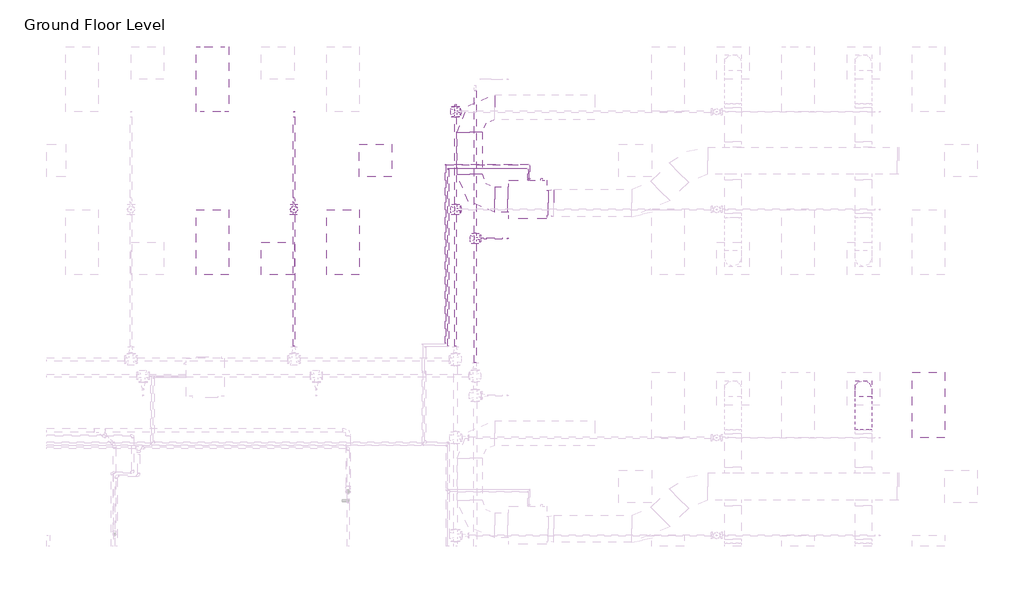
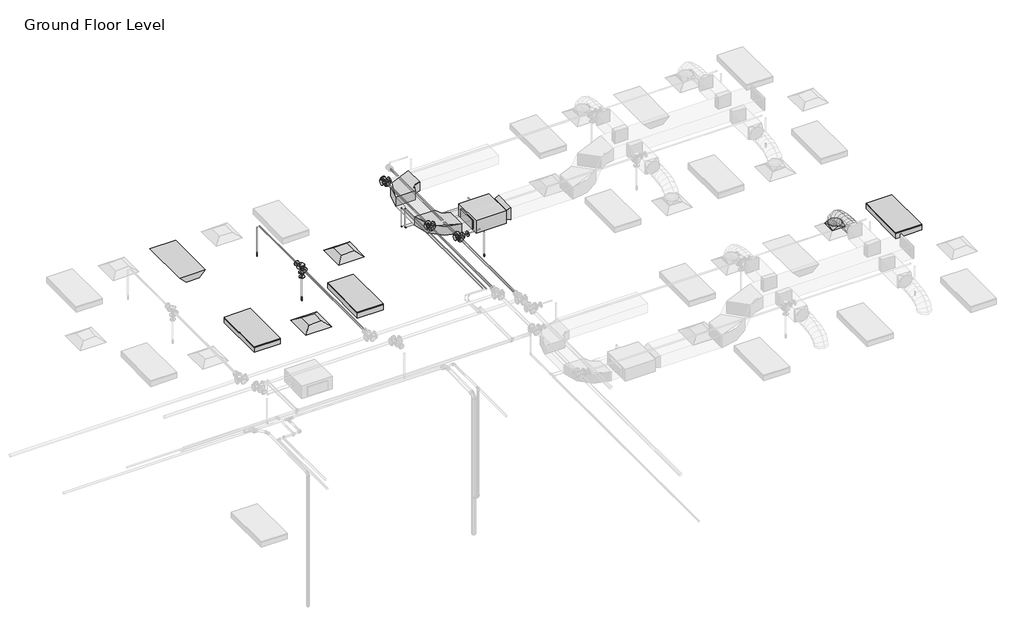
# One storey, part 70 of 73: 19 pipe segments, 11 pipe fittings, 4 duct fittings, 4 light fixtures, 3 duct segments, 3 fire suppression terminals, 2 air terminals, 1 proxy.
"""IFC4 building model written with IfcOpenShell, lengths in millimetres."""

from ifc_helpers import new_model, si_unit, point, frame, frame_2d, origin, place, context, project, spatial, polyline, circle_curve, ellipse_curve, trimmed, segment, composite_curve, outline, extrude, transform, mapped, element, save
from ifc_brep_helpers import plane_surface, cylinder_surface, advanced_brep
from components import m_return_diffuser_600_x_600_face_300_x_300_connection_ff221211, fcu_daikin_iu_bad131e0, m_rectangular_elbow_radius_1_w_54c96895, m_rectangular_transition_angle_45_degree_2b595dfe, m_rectangular_to_round_transition_angle_45_degree_641efff0, m_sprinkler_dry_pendent_hosted_15_mm_dry_pendent_9bda8e11, m_sprinkler_pendent_15_mm_pendent_06fcbd8e, m_emergency_recessed_lighting_fixture_600x1200_277_5b10b25d, m_troffer_light_parabolic_rectangular1_0600x1200mm_4_lamp_86473d4a, m_elbow_generic_standard_a088f956, m_elbow_generic_standard_2a704253, m_reducer_flanged_cs_class_150_standard_d42b2106, m_tee_round_base_flanged_cs_class_150_standard_7e5987a1

model = new_model("IFC4")

# Units and contexts
model_context = context("Model", 3, world=origin())
ifc_project = project(units=[si_unit("LENGTHUNIT", "METRE", prefix="MILLI")], contexts=[model_context])

# Site, building, storey
site = spatial("IfcSite", under=ifc_project)
building = spatial("IfcBuilding", under=site)
storey = spatial("IfcBuildingStorey", under=building, Name="Ground Floor Level", Elevation=900.0)

# Air terminals
placement = place(None, origin())
m_return_diffuser_600_x_600_face_300_x_300_connection_shape = m_return_diffuser_600_x_600_face_300_x_300_connection_ff221211(model_context)
element("IfcAirTerminal", 1, ObjectType="M_Return Diffuser : 600 x 600 Face 300 x 300 Connection", at=placement, inside=storey, context=model_context, shape_type="MappedRepresentation", body=[
    mapped(m_return_diffuser_600_x_600_face_300_x_300_connection_shape, transform((4162.7672395, 18735.2153534, 3650.0), x_axis=(1.0, 0.0, 0.0), y_axis=(0.0, 1.0, 0.0), z_axis=(0.0, 0.0, 1.0))),
])
element("IfcAirTerminal", 2, ObjectType="M_Supply Diffuser : 600 x 600 Face 300 x 300 Connection", at=placement, inside=storey, context=model_context, shape_type="MappedRepresentation", body=[
    mapped(m_return_diffuser_600_x_600_face_300_x_300_connection_shape, transform((2362.7672395, 16935.2153534, 3650.0), x_axis=(1.0, 0.0, 0.0), y_axis=(0.0, 1.0, 0.0), z_axis=(0.0, 0.0, 1.0))),
])

# Proxy
fcu_daikin_iu_shape = fcu_daikin_iu_bad131e0(model_context)
element("IfcBuildingElementProxy", 3, Name="FCU-DAIKIN IU : 4.5kW, 230V/50Hz/1Ph", ObjectType="FCU-DAIKIN IU : 4.5kW, 230V/50Hz/1Ph", at=placement, inside=storey, context=model_context, shape_type="MappedRepresentation", body=[
    mapped(fcu_daikin_iu_shape, transform((6968.8139492, 18019.6779527, 3934.0932729), x_axis=(0.0, 1.0, 0.0), y_axis=(-1.0, 0.0, 0.0), z_axis=(0.0, 0.0, 1.0))),
])

# Duct fittings
m_rectangular_elbow_radius_1_w_shape = m_rectangular_elbow_radius_1_w_54c96895(model_context)
element("IfcDuctFitting", 4, ObjectType="M_Rectangular Elbow - Radius : 1 W", at=placement, inside=storey, context=model_context, shape_type="MappedRepresentation", body=[
    mapped(m_rectangular_elbow_radius_1_w_shape, transform((5893.4139492, 18019.6779527, 4075.2932729), x_axis=(0.0, -1.0, 0.0), y_axis=(1.0, 0.0, 0.0), z_axis=(0.0, 0.0, 1.0))),
])
element("IfcDuctFitting", 5, ObjectType="M_Rectangular Elbow - Radius : 1 W", at=placement, inside=storey, context=model_context, shape_type="MappedRepresentation", body=[
    mapped(m_rectangular_elbow_radius_1_w_shape, transform((5893.4139492, 19719.6783949, 4075.2932729), x_axis=(-1.0, 0.0, 0.0), y_axis=(0.0, -1.0, 0.0), z_axis=(0.0, 0.0, 1.0))),
])
m_rectangular_transition_angle_45_degree_shape = m_rectangular_transition_angle_45_degree_2b595dfe(model_context)
element("IfcDuctFitting", 6, ObjectType="M_Rectangular Transition - Angle : 45 Degree", at=placement, inside=storey, context=model_context, shape_type="MappedRepresentation", body=[
    mapped(m_rectangular_transition_angle_45_degree_shape, transform((7344.2139492, 17956.1779527, 4100.0057729), x_axis=(1.0, 0.0, 0.0), y_axis=(0.0, 1.0, 0.0), z_axis=(0.0, 0.0, 1.0))),
])
m_rectangular_to_round_transition_angle_45_degree_shape = m_rectangular_to_round_transition_angle_45_degree_641efff0(model_context)
element("IfcDuctFitting", 7, ObjectType="M_Rectangular to Round Transition - Angle : 45 Degree", at=placement, inside=storey, context=model_context, shape_type="MappedRepresentation", body=[
    mapped(m_rectangular_to_round_transition_angle_45_degree_shape, transform((13142.7672395, 14535.2153534, 3751.6), x_axis=(0.0, 0.0, 1.0), y_axis=(-1.0, 0.0, 0.0), z_axis=(0.0, -1.0, 0.0))),
])

# Duct segments
element("IfcDuctSegment", 8, ObjectType="Flex - Round", at=placement, inside=storey, context=model_context, shape_type="AdvancedBrep", body=[
    advanced_brep(
    [(13292.7672395, 14535.2153534, 3826.6), (13142.7672395, 14385.2153534, 3826.6), (12992.7672395, 14535.2153534, 3826.6), (13142.7672395, 14685.2153534, 3826.6), (13292.7672395, 14535.2153534, 3857.9377114), (13142.7672395, 14385.2153534, 3832.2944892), (12992.7672395, 14535.2153534, 3857.9377114), (13142.7672395, 14685.2153534, 3883.5809337), (13292.7672395, 14518.1994208, 3906.2505728), (13142.7672395, 14384.4614419, 3834.435049), (12992.7672395, 14518.1994208, 3906.2505728), (13142.7672395, 14651.9373998, 3978.0660967), (13292.7672395, 14471.0155405, 3968.7113131), (13142.7672395, 14366.8096412, 3857.8020236), (12992.7672395, 14471.0155405, 3968.7113131), (13142.7672395, 14575.2214397, 4079.6206026), (13292.7672395, 14399.4595883, 4016.0700639), (13142.7672395, 14330.5255327, 3881.8163788), (12992.7672395, 14399.4595883, 4016.0700639), (13142.7672395, 14468.3936439, 4150.3237489), (13292.7672395, 14309.3274403, 4050.4146682), (13142.7672395, 14265.7666771, 3906.4925606), (12992.7672395, 14309.3274403, 4050.4146682), (13142.7672395, 14352.8882035, 4194.3367758), (13292.7672395, 14206.4149725, 4073.8329691), (13142.7672395, 14179.8540485, 3926.0424542), (12992.7672395, 14206.4149725, 4073.8329691), (13142.7672395, 14232.9758965, 4221.6234841), (13292.7672395, 14096.5180607, 4088.4128097), (13142.7672395, 14081.3671584, 3939.1085462), (12992.7672395, 14096.5180607, 4088.4128097), (13142.7672395, 14111.6689631, 4237.7170733), (13292.7672395, 13985.4325811, 4096.242033), (13142.7672395, 13977.9272529, 3946.398915), (12992.7672395, 13985.4325811, 4096.242033), (13142.7672395, 13992.9379093, 4246.085151), (13292.7672395, 13878.9544096, 4099.4084821), (13142.7672395, 13876.2629165, 3949.4222102), (12992.7672395, 13878.9544096, 4099.4084821), (13142.7672395, 13881.6459027, 4249.394754), (13292.7672395, 13782.8794221, 4100.0), (13142.7672395, 13783.8029299, 4249.9971571), (12992.7672395, 13782.8794221, 4100.0), (13142.7672395, 13781.9559143, 3950.0028429)],
    [
        (0, 1, circle_curve(frame((13142.7672395, 14535.2153534, 3826.6), z_axis=(0.0, 0.0, -1.0), x_axis=(1.0, 0.0, 0.0)), 150.0)),
        (1, 2, circle_curve(frame((13142.7672395, 14535.2153534, 3826.6), z_axis=(0.0, 0.0, -1.0), x_axis=(1.0, 0.0, 0.0)), 150.0)),
        (2, 3, circle_curve(frame((13142.7672395, 14535.2153534, 3826.6), z_axis=(0.0, 0.0, -1.0), x_axis=(1.0, 0.0, 0.0)), 150.0)),
        (3, 0, circle_curve(frame((13142.7672395, 14535.2153534, 3826.6), z_axis=(0.0, 0.0, -1.0), x_axis=(1.0, 0.0, 0.0)), 150.0)),
        (0, 4),
        (4, 5, ellipse_curve(frame((13142.7672395, 14535.2153534, 3857.9377114), z_axis=(0.0, 0.16851014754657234, -0.9856999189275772), x_axis=(0.0, -0.9856999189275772, -0.1685101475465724)), 152.176131, 150.0)),
        (5, 1),
        (5, 6, ellipse_curve(frame((13142.7672395, 14535.2153534, 3857.9377114), z_axis=(0.0, 0.16851014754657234, -0.9856999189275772), x_axis=(0.0, -0.9856999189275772, -0.1685101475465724)), 152.176131, 150.0)),
        (6, 2),
        (6, 7, ellipse_curve(frame((13142.7672395, 14535.2153534, 3857.9377114), z_axis=(0.0, 0.16851014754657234, -0.9856999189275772), x_axis=(0.0, -0.9856999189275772, -0.1685101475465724)), 152.176131, 150.0)),
        (7, 3),
        (7, 4, ellipse_curve(frame((13142.7672395, 14535.2153534, 3857.9377114), z_axis=(0.0, 0.16851014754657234, -0.9856999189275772), x_axis=(0.0, -0.9856999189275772, -0.1685101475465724)), 152.176131, 150.0)),
        (4, 8),
        (8, 9, ellipse_curve(frame((13142.7672395, 14518.1994208, 3906.2505728), z_axis=(0.0, 0.47309225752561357, -0.8810128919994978), x_axis=(0.0, -0.8810128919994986, -0.47309225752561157)), 151.8002519, 150.0)),
        (9, 5),
        (9, 10, ellipse_curve(frame((13142.7672395, 14518.1994208, 3906.2505728), z_axis=(0.0, 0.47309225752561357, -0.8810128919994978), x_axis=(0.0, -0.8810128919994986, -0.47309225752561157)), 151.8002519, 150.0)),
        (10, 6),
        (10, 11, ellipse_curve(frame((13142.7672395, 14518.1994208, 3906.2505728), z_axis=(0.0, 0.47309225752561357, -0.8810128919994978), x_axis=(0.0, -0.8810128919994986, -0.47309225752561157)), 151.8002519, 150.0)),
        (11, 7),
        (11, 8, ellipse_curve(frame((13142.7672395, 14518.1994208, 3906.2505728), z_axis=(0.0, 0.47309225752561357, -0.8810128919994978), x_axis=(0.0, -0.8810128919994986, -0.47309225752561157)), 151.8002519, 150.0)),
        (8, 12),
        (12, 13, ellipse_curve(frame((13142.7672395, 14471.0155405, 3968.7113131), z_axis=(0.0, 0.7287877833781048, -0.6847396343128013), x_axis=(0.0, -0.6847396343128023, -0.7287877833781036)), 152.1832446, 150.0)),
        (13, 9),
        (13, 14, ellipse_curve(frame((13142.7672395, 14471.0155405, 3968.7113131), z_axis=(0.0, 0.7287877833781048, -0.6847396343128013), x_axis=(0.0, -0.6847396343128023, -0.7287877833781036)), 152.1832446, 150.0)),
        (14, 10),
        (14, 15, ellipse_curve(frame((13142.7672395, 14471.0155405, 3968.7113131), z_axis=(0.0, 0.7287877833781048, -0.6847396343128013), x_axis=(0.0, -0.6847396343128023, -0.7287877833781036)), 152.1832446, 150.0)),
        (15, 11),
        (15, 12, ellipse_curve(frame((13142.7672395, 14471.0155405, 3968.7113131), z_axis=(0.0, 0.7287877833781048, -0.6847396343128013), x_axis=(0.0, -0.6847396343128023, -0.7287877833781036)), 152.1832446, 150.0)),
        (12, 16),
        (16, 17, ellipse_curve(frame((13142.7672395, 14399.4595883, 4016.0700639), z_axis=(0.0, 0.8895859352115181, -0.4567678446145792), x_axis=(0.0, -0.4567678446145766, -0.8895859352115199)), 150.91705, 150.0)),
        (17, 13),
        (17, 18, ellipse_curve(frame((13142.7672395, 14399.4595883, 4016.0700639), z_axis=(0.0, 0.8895859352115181, -0.4567678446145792), x_axis=(0.0, -0.4567678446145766, -0.8895859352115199)), 150.91705, 150.0)),
        (18, 14),
        (18, 19, ellipse_curve(frame((13142.7672395, 14399.4595883, 4016.0700639), z_axis=(0.0, 0.8895859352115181, -0.4567678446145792), x_axis=(0.0, -0.4567678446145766, -0.8895859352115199)), 150.91705, 150.0)),
        (19, 15),
        (19, 16, ellipse_curve(frame((13142.7672395, 14399.4595883, 4016.0700639), z_axis=(0.0, 0.8895859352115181, -0.4567678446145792), x_axis=(0.0, -0.4567678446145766, -0.8895859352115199)), 150.91705, 150.0)),
        (16, 20),
        (20, 21, ellipse_curve(frame((13142.7672395, 14309.3274403, 4050.4146682), z_axis=(0.0, 0.9571203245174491, -0.2896906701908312), x_axis=(0.0, -0.2896906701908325, -0.9571203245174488)), 150.369921, 150.0)),
        (21, 17),
        (21, 22, ellipse_curve(frame((13142.7672395, 14309.3274403, 4050.4146682), z_axis=(0.0, 0.9571203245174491, -0.2896906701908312), x_axis=(0.0, -0.2896906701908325, -0.9571203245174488)), 150.369921, 150.0)),
        (22, 18),
        (22, 23, ellipse_curve(frame((13142.7672395, 14309.3274403, 4050.4146682), z_axis=(0.0, 0.9571203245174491, -0.2896906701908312), x_axis=(0.0, -0.2896906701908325, -0.9571203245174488)), 150.369921, 150.0)),
        (23, 19),
        (23, 20, ellipse_curve(frame((13142.7672395, 14309.3274403, 4050.4146682), z_axis=(0.0, 0.9571203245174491, -0.2896906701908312), x_axis=(0.0, -0.2896906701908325, -0.9571203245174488)), 150.369921, 150.0)),
        (20, 24),
        (24, 25, ellipse_curve(frame((13142.7672395, 14206.4149725, 4073.8329691), z_axis=(0.0, 0.9842313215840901, -0.17688613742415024), x_axis=(0.0, -0.1768861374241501, -0.9842313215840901)), 150.1583131, 150.0)),
        (25, 21),
        (25, 26, ellipse_curve(frame((13142.7672395, 14206.4149725, 4073.8329691), z_axis=(0.0, 0.9842313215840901, -0.17688613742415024), x_axis=(0.0, -0.1768861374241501, -0.9842313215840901)), 150.1583131, 150.0)),
        (26, 22),
        (26, 27, ellipse_curve(frame((13142.7672395, 14206.4149725, 4073.8329691), z_axis=(0.0, 0.9842313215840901, -0.17688613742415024), x_axis=(0.0, -0.1768861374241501, -0.9842313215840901)), 150.1583131, 150.0)),
        (27, 23),
        (27, 24, ellipse_curve(frame((13142.7672395, 14206.4149725, 4073.8329691), z_axis=(0.0, 0.9842313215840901, -0.17688613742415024), x_axis=(0.0, -0.1768861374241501, -0.9842313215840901)), 150.1583131, 150.0)),
        (24, 28),
        (28, 29, ellipse_curve(frame((13142.7672395, 14096.5180607, 4088.4128097), z_axis=(0.0, 0.9948906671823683, -0.10095821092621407), x_axis=(0.0, -0.10095821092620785, -0.994890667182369)), 150.0710264, 150.0)),
        (29, 25),
        (29, 30, ellipse_curve(frame((13142.7672395, 14096.5180607, 4088.4128097), z_axis=(0.0, 0.9948906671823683, -0.10095821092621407), x_axis=(0.0, -0.10095821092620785, -0.994890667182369)), 150.0710264, 150.0)),
        (30, 26),
        (30, 31, ellipse_curve(frame((13142.7672395, 14096.5180607, 4088.4128097), z_axis=(0.0, 0.9948906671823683, -0.10095821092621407), x_axis=(0.0, -0.10095821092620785, -0.994890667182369)), 150.0710264, 150.0)),
        (31, 27),
        (31, 28, ellipse_curve(frame((13142.7672395, 14096.5180607, 4088.4128097), z_axis=(0.0, 0.9948906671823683, -0.10095821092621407), x_axis=(0.0, -0.10095821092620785, -0.994890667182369)), 150.0710264, 150.0)),
        (28, 32),
        (32, 33, ellipse_curve(frame((13142.7672395, 13985.4325811, 4096.242033), z_axis=(0.0, 0.9987479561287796, -0.05002519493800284), x_axis=(0.0, -0.05002519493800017, -0.9987479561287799)), 150.0309634, 150.0)),
        (33, 29),
        (33, 34, ellipse_curve(frame((13142.7672395, 13985.4325811, 4096.242033), z_axis=(0.0, 0.9987479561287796, -0.05002519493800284), x_axis=(0.0, -0.05002519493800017, -0.9987479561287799)), 150.0309634, 150.0)),
        (34, 30),
        (34, 35, ellipse_curve(frame((13142.7672395, 13985.4325811, 4096.242033), z_axis=(0.0, 0.9987479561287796, -0.05002519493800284), x_axis=(0.0, -0.05002519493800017, -0.9987479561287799)), 150.0309634, 150.0)),
        (35, 31),
        (35, 32, ellipse_curve(frame((13142.7672395, 13985.4325811, 4096.242033), z_axis=(0.0, 0.9987479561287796, -0.05002519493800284), x_axis=(0.0, -0.05002519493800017, -0.9987479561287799)), 150.0309634, 150.0)),
        (32, 36),
        (36, 37, ellipse_curve(frame((13142.7672395, 13878.9544096, 4099.4084821), z_axis=(0.0, 0.9998390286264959, -0.01794204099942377), x_axis=(0.0, -0.01794204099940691, -0.9998390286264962)), 150.0104193, 150.0)),
        (37, 33),
        (37, 38, ellipse_curve(frame((13142.7672395, 13878.9544096, 4099.4084821), z_axis=(0.0, 0.9998390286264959, -0.01794204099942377), x_axis=(0.0, -0.01794204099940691, -0.9998390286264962)), 150.0104193, 150.0)),
        (38, 34),
        (38, 39, ellipse_curve(frame((13142.7672395, 13878.9544096, 4099.4084821), z_axis=(0.0, 0.9998390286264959, -0.01794204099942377), x_axis=(0.0, -0.01794204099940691, -0.9998390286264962)), 150.0104193, 150.0)),
        (39, 35),
        (39, 36, ellipse_curve(frame((13142.7672395, 13878.9544096, 4099.4084821), z_axis=(0.0, 0.9998390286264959, -0.01794204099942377), x_axis=(0.0, -0.01794204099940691, -0.9998390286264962)), 150.0104193, 150.0)),
        (40, 41, circle_curve(frame((13142.7672395, 13782.8794221, 4100.0), z_axis=(0.0, -0.9999810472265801, 0.006156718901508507), x_axis=(1.0, 0.0, 0.0)), 150.0)),
        (41, 42, circle_curve(frame((13142.7672395, 13782.8794221, 4100.0), z_axis=(0.0, -0.9999810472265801, 0.006156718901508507), x_axis=(1.0, 0.0, 0.0)), 150.0)),
        (42, 43, circle_curve(frame((13142.7672395, 13782.8794221, 4100.0), z_axis=(0.0, -0.9999810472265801, 0.006156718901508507), x_axis=(1.0, 0.0, 0.0)), 150.0)),
        (43, 40, circle_curve(frame((13142.7672395, 13782.8794221, 4100.0), z_axis=(0.0, -0.9999810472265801, 0.006156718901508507), x_axis=(1.0, 0.0, 0.0)), 150.0)),
        (36, 40),
        (43, 37),
        (42, 38),
        (41, 39),
    ],
    [
        plane_surface(frame((13142.7672395, 14385.2153534, 3826.6), z_axis=(0.0, 0.0, -1.0), x_axis=(1.0, 0.0, 0.0))),
        cylinder_surface(frame((13142.7672395, 14535.2153534, 3826.6), z_axis=(0.0, 0.0, -1.0), x_axis=(1.0, 0.0, 0.0)), 150.0),
        cylinder_surface(frame((13142.7672395, 14535.2153534, 3857.9377114), z_axis=(0.0, 0.3322008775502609, -0.9432086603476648), x_axis=(1.0, 0.0, 0.0)), 150.0),
        cylinder_surface(frame((13142.7672395, 14518.1994208, 3906.2505728), z_axis=(0.0, 0.6027625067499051, -0.7979206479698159), x_axis=(1.0, 0.0, 0.0)), 150.0),
        cylinder_surface(frame((13142.7672395, 14471.0155405, 3968.7113131), z_axis=(0.0, 0.833902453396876, -0.5519118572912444), x_axis=(1.0, 0.0, 0.0)), 150.0),
        cylinder_surface(frame((13142.7672395, 14399.4595883, 4016.0700639), z_axis=(0.0, 0.9344582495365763, -0.35607271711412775), x_axis=(1.0, 0.0, 0.0)), 150.0),
        cylinder_surface(frame((13142.7672395, 14309.3274403, 4050.4146682), z_axis=(0.0, 0.9750732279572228, -0.22188330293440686), x_axis=(1.0, 0.0, 0.0)), 150.0),
        cylinder_surface(frame((13142.7672395, 14206.4149725, 4073.8329691), z_axis=(0.0, 0.9913140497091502, -0.13151598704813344), x_axis=(1.0, 0.0, 0.0)), 150.0),
        cylinder_surface(frame((13142.7672395, 14096.5180607, 4088.4128097), z_axis=(0.0, 0.9975255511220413, -0.07030487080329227), x_axis=(1.0, 0.0, 0.0)), 150.0),
        cylinder_surface(frame((13142.7672395, 13985.4325811, 4096.242033), z_axis=(0.0, 0.9995581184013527, -0.02972487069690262), x_axis=(1.0, 0.0, 0.0)), 150.0),
        plane_surface(frame((13142.7672395, 13781.9559143, 3950.0028429), z_axis=(0.0, -0.9999810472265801, 0.0061567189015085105), x_axis=(1.0, 0.0, 0.0))),
        cylinder_surface(frame((13142.7672395, 13878.9544096, 4099.4084821), z_axis=(0.0, 0.9999810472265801, -0.006156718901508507), x_axis=(1.0, 0.0, 0.0)), 150.0),
    ],
    [
        (0, [[1, 2, 3, 4]]),
        (1, [[-1, 5, 6, 7]]),
        (1, [[-2, -7, 8, 9]]),
        (1, [[-3, -9, 10, 11]]),
        (1, [[-4, -11, 12, -5]]),
        (2, [[-6, 13, 14, 15]]),
        (2, [[-8, -15, 16, 17]]),
        (2, [[-10, -17, 18, 19]]),
        (2, [[-12, -19, 20, -13]]),
        (3, [[-14, 21, 22, 23]]),
        (3, [[-16, -23, 24, 25]]),
        (3, [[-18, -25, 26, 27]]),
        (3, [[-20, -27, 28, -21]]),
        (4, [[-22, 29, 30, 31]]),
        (4, [[-24, -31, 32, 33]]),
        (4, [[-26, -33, 34, 35]]),
        (4, [[-28, -35, 36, -29]]),
        (5, [[-30, 37, 38, 39]]),
        (5, [[-32, -39, 40, 41]]),
        (5, [[-34, -41, 42, 43]]),
        (5, [[-36, -43, 44, -37]]),
        (6, [[-38, 45, 46, 47]]),
        (6, [[-40, -47, 48, 49]]),
        (6, [[-42, -49, 50, 51]]),
        (6, [[-44, -51, 52, -45]]),
        (7, [[-46, 53, 54, 55]]),
        (7, [[-48, -55, 56, 57]]),
        (7, [[-50, -57, 58, 59]]),
        (7, [[-52, -59, 60, -53]]),
        (8, [[-54, 61, 62, 63]]),
        (8, [[-56, -63, 64, 65]]),
        (8, [[-58, -65, 66, 67]]),
        (8, [[-60, -67, 68, -61]]),
        (9, [[-62, 69, 70, 71]]),
        (9, [[-64, -71, 72, 73]]),
        (9, [[-66, -73, 74, 75]]),
        (9, [[-68, -75, 76, -69]]),
        (10, [[77, 78, 79, 80]]),
        (11, [[-70, 81, -80, 82]]),
        (11, [[-72, -82, -79, 83]]),
        (11, [[-74, -83, -78, 84]]),
        (11, [[-76, -84, -77, -81]]),
    ],
),
])
element("IfcDuctSegment", 9, ObjectType="Radius Elbows / Taps", at=placement, inside=storey, context=model_context, shape_type="SweptSolid", body=[
    extrude(outline(polyline([(6593.4139492, 18250.6154527), (6593.4139492, 17788.7404527), (6355.2889492, 17788.7404527), (6355.2889492, 18250.6154527), (6593.4139492, 18250.6154527)])), frame((0.0, 0.0, 3968.1432729), z_axis=(0.0, 0.0, 1.0), x_axis=(1.0, 0.0, 0.0)), (0.0, 0.0, 1.0), 214.3),
])
element("IfcDuctSegment", 10, ObjectType="Radius Elbows / Taps", at=placement, inside=storey, context=model_context, shape_type="SweptSolid", body=[
    extrude(outline(polyline([(6124.3514492, 18481.5529527), (5662.4764492, 18481.5529527), (5662.4764492, 19257.8033949), (6124.3514492, 19257.8033949), (6124.3514492, 18481.5529527)])), frame((0.0, 0.0, 3968.1432729), z_axis=(0.0, 0.0, 1.0), x_axis=(1.0, 0.0, 0.0)), (0.0, 0.0, 1.0), 214.3),
])

# Fire suppression terminals
m_sprinkler_dry_pendent_hosted_15_mm_dry_pendent_shape = m_sprinkler_dry_pendent_hosted_15_mm_dry_pendent_9bda8e11(model_context)
element("IfcFireSuppressionTerminal", 11, ObjectType="M_Sprinkler - Dry - Pendent - Hosted : 15 mm Dry Pendent", at=placement, inside=storey, context=model_context, shape_type="MappedRepresentation", body=[
    mapped(m_sprinkler_dry_pendent_hosted_15_mm_dry_pendent_shape, transform((2662.7672395, 19635.2153534, 3650.0), x_axis=(1.0, 0.0, 0.0), y_axis=(0.0, -1.0, 0.0), z_axis=(0.0, 0.0, -1.0))),
])
element("IfcFireSuppressionTerminal", 12, ObjectType="M_Sprinkler - Dry - Pendent - Hosted : 15 mm Dry Pendent", at=placement, inside=storey, context=model_context, shape_type="MappedRepresentation", body=[
    mapped(m_sprinkler_dry_pendent_hosted_15_mm_dry_pendent_shape, transform((2662.7672395, 17835.2153534, 3650.0), x_axis=(1.0, 0.0, 0.0), y_axis=(0.0, -1.0, 0.0), z_axis=(0.0, 0.0, -1.0))),
])
m_sprinkler_pendent_15_mm_pendent_shape = m_sprinkler_pendent_15_mm_pendent_06fcbd8e(model_context)
element("IfcFireSuppressionTerminal", 13, ObjectType="M_Sprinkler - Pendent : 15 mm Pendent", at=placement, inside=storey, context=model_context, shape_type="MappedRepresentation", body=[
    mapped(m_sprinkler_pendent_15_mm_pendent_shape, transform((6592.5481019, 17301.8585069, 3650.0), x_axis=(1.0, 0.0, 0.0), y_axis=(0.0, 1.0, 0.0), z_axis=(0.0, 0.0, 1.0))),
])

# Light fixtures
m_emergency_recessed_lighting_fixture_600x1200_277_shape = m_emergency_recessed_lighting_fixture_600x1200_277_5b10b25d(model_context)
element("IfcLightFixture", 14, ObjectType="M_Emergency Recessed Lighting Fixture : 600x1200 - 277", at=placement, inside=storey, context=model_context, shape_type="MappedRepresentation", body=[
    mapped(m_emergency_recessed_lighting_fixture_600x1200_277_shape, transform((862.7672395, 19635.2153534, 3650.0), x_axis=(0.0, 1.0, 0.0), y_axis=(-1.0, 0.0, 0.0), z_axis=(0.0, 0.0, 1.0))),
])
m_troffer_light_parabolic_rectangular1_0600x1200mm_4_lamp_shape = m_troffer_light_parabolic_rectangular1_0600x1200mm_4_lamp_86473d4a(model_context)
element("IfcLightFixture", 15, ObjectType="M_Troffer Light - Parabolic Rectangular1 : 0600x1200mm(4 Lamp) - 277V 2", at=placement, inside=storey, context=model_context, shape_type="MappedRepresentation", body=[
    mapped(m_troffer_light_parabolic_rectangular1_0600x1200mm_4_lamp_shape, transform((1103.3013074, 17253.918855, 3650.0), x_axis=(0.0, 1.0, 0.0), y_axis=(-1.0, 0.0, 0.0), z_axis=(0.0, 0.0, 1.0))),
])
element("IfcLightFixture", 16, ObjectType="M_Troffer Light - Parabolic Rectangular1 : 0600x1200mm(4 Lamp) - 277V 2", at=placement, inside=storey, context=model_context, shape_type="MappedRepresentation", body=[
    mapped(m_troffer_light_parabolic_rectangular1_0600x1200mm_4_lamp_shape, transform((3503.3013074, 17253.918855, 3650.0), x_axis=(0.0, 1.0, 0.0), y_axis=(-1.0, 0.0, 0.0), z_axis=(0.0, 0.0, 1.0))),
])
element("IfcLightFixture", 17, ObjectType="M_Troffer Light - Parabolic Rectangular1 : 0600x1200mm(4 Lamp) - 277V 2", at=placement, inside=storey, context=model_context, shape_type="MappedRepresentation", body=[
    mapped(m_troffer_light_parabolic_rectangular1_0600x1200mm_4_lamp_shape, transform((14283.3013074, 14253.918855, 3650.0), x_axis=(0.0, 1.0, 0.0), y_axis=(-1.0, 0.0, 0.0), z_axis=(0.0, 0.0, 1.0))),
])

# Pipe fittings
m_elbow_generic_standard_shape = m_elbow_generic_standard_a088f956(model_context)
element("IfcPipeFitting", 18, ObjectType="M_Elbow - Generic : Standard", at=placement, inside=storey, context=model_context, shape_type="MappedRepresentation", body=[
    mapped(m_elbow_generic_standard_shape, transform((5501.7675988, 18590.9278534, 4380.0), x_axis=(0.0, 0.0, 1.0), y_axis=(0.0, -1.0, 0.0), z_axis=(1.0, 0.0, 0.0))),
])
element("IfcPipeFitting", 19, ObjectType="M_Elbow - Generic : Standard", at=placement, inside=storey, context=model_context, shape_type="MappedRepresentation", body=[
    mapped(m_elbow_generic_standard_shape, transform((5501.7675988, 18590.9278534, 3900.0), x_axis=(0.0, 0.0, -1.0), y_axis=(1.0, 0.0, 0.0), z_axis=(0.0, -1.0, 0.0))),
])
m_elbow_generic_standard_2_shape = m_elbow_generic_standard_2a704253(model_context)
element("IfcPipeFitting", 20, ObjectType="M_Elbow - Generic : Standard", at=placement, inside=storey, context=model_context, shape_type="MappedRepresentation", body=[
    mapped(m_elbow_generic_standard_2_shape, transform((5452.0810646, 18659.0778536, 4365.0), x_axis=(0.0, 1.0, 0.0), y_axis=(0.0, 0.0, -1.0), z_axis=(-1.0, 0.0, 0.0))),
])
element("IfcPipeFitting", 21, ObjectType="M_Elbow - Generic : Standard", at=placement, inside=storey, context=model_context, shape_type="MappedRepresentation", body=[
    mapped(m_elbow_generic_standard_2_shape, transform((5452.0810646, 18659.0778534, 3900.0), x_axis=(0.0, 0.0, -1.0), y_axis=(1.0, 0.0, 0.0), z_axis=(0.0, -1.0, 0.0))),
])
m_reducer_flanged_cs_class_150_standard_shape = m_reducer_flanged_cs_class_150_standard_d42b2106(model_context)
element("IfcPipeFitting", 22, ObjectType="M_Reducer - Flanged - CS - Class 150 : Standard", at=placement, inside=storey, context=model_context, shape_type="MappedRepresentation", body=[
    mapped(m_reducer_flanged_cs_class_150_standard_shape, transform((6097.7664057, 17301.8585069, 4291.2754753), x_axis=(1.0, 0.0, 0.0), y_axis=(0.0, 0.0, -1.0), z_axis=(0.0, 1.0, 0.0))),
])
element("IfcPipeFitting", 23, ObjectType="M_Reducer - Flanged - CS - Class 150 : Standard", at=placement, inside=storey, context=model_context, shape_type="MappedRepresentation", body=[
    mapped(m_reducer_flanged_cs_class_150_standard_shape, transform((2662.7672395, 17935.9239471, 4360.0), x_axis=(0.0, 1.0, 0.0), y_axis=(-1.0, 0.0, 0.0), z_axis=(0.0, 0.0, 1.0))),
])
element("IfcPipeFitting", 24, ObjectType="M_Reducer - Flanged - CS - Class 150 : Standard", at=placement, inside=storey, context=model_context, shape_type="MappedRepresentation", body=[
    mapped(m_reducer_flanged_cs_class_150_standard_shape, transform((2662.7672395, 17835.2153534, 4259.2914063), x_axis=(0.0, 0.0, -1.0), y_axis=(-1.0, 0.0, 0.0), z_axis=(0.0, 1.0, 0.0))),
])
m_tee_round_base_flanged_cs_class_150_standard_shape = m_tee_round_base_flanged_cs_class_150_standard_7e5987a1(model_context)
element("IfcPipeFitting", 25, ObjectType="M_Tee Round Base - Flanged - CS - Class 150 : Standard", at=placement, inside=storey, context=model_context, shape_type="MappedRepresentation", body=[
    mapped(m_tee_round_base_flanged_cs_class_150_standard_shape, transform((5997.057812, 17301.8585069, 4291.0943441), x_axis=(0.0, -1.0, 0.0), y_axis=(-1.0, 0.0, 0.0), z_axis=(0.0, 0.0, -1.0))),
])
element("IfcPipeFitting", 26, ObjectType="M_Tee Round Base - Flanged - CS - Class 150 : Standard", at=placement, inside=storey, context=model_context, shape_type="MappedRepresentation", body=[
    mapped(m_tee_round_base_flanged_cs_class_150_standard_shape, transform((2662.7672395, 17835.2153534, 4360.0), x_axis=(0.0, 1.0, 0.0), y_axis=(0.0, 0.0, 1.0), z_axis=(1.0, 0.0, 0.0))),
])
element("IfcPipeFitting", 27, ObjectType="M_Tee Round Base - Flanged - CS - Class 150 : Standard", at=placement, inside=storey, context=model_context, shape_type="MappedRepresentation", body=[
    mapped(m_tee_round_base_flanged_cs_class_150_standard_shape, transform((5635.869498, 19635.2153534, 4360.0), x_axis=(0.0, -1.0, 0.0), y_axis=(-1.0, 0.0, 0.0), z_axis=(0.0, 0.0, -1.0))),
])
element("IfcPipeFitting", 28, ObjectType="M_Tee Round Base - Flanged - CS - Class 150 : Standard", at=placement, inside=storey, context=model_context, shape_type="MappedRepresentation", body=[
    mapped(m_tee_round_base_flanged_cs_class_150_standard_shape, transform((5635.869498, 17835.2153534, 4360.0), x_axis=(0.0, -1.0, 0.0), y_axis=(-1.0, 0.0, 0.0), z_axis=(0.0, 0.0, -1.0))),
])

# Pipe segments
element("IfcPipeSegment", 29, ObjectType="Copper", at=placement, inside=storey, context=model_context, shape_type="SweptSolid", body=[
    extrude(outline(composite_curve([segment(trimmed(circle_curve(frame_2d((4365.0, 5452.0810646)), 3.35), [point((4365.0, 5455.4310646))], [point((4368.35, 5452.0810646))], False, "CARTESIAN"), True, "CONTINUOUS"), segment(trimmed(circle_curve(frame_2d((4365.0, 5452.0810646)), 3.35), [point((4368.35, 5452.0810646))], [point((4365.0, 5448.7310646))], False, "CARTESIAN"), True, "CONTINUOUS"), segment(trimmed(circle_curve(frame_2d((4365.0, 5452.0810646)), 3.35), [point((4365.0, 5448.7310646))], [point((4361.65, 5452.0810646))], False, "CARTESIAN"), True, "CONTINUOUS"), segment(trimmed(circle_curve(frame_2d((4365.0, 5452.0810646)), 3.35), [point((4361.65, 5452.0810646))], [point((4365.0, 5455.4310646))], False, "CARTESIAN"), True, "CONTINUOUS")], self_intersect=False)), frame((0.0, 15370.2153534, 0.0), z_axis=(0.0, 1.0, 0.0), x_axis=(0.0, 0.0, 1.0)), (0.0, 0.0, 1.0), 3277.7250002),
])
element("IfcPipeSegment", 30, ObjectType="Copper", at=placement, inside=storey, context=model_context, shape_type="SweptSolid", body=[
    extrude(outline(composite_curve([segment(trimmed(circle_curve(frame_2d((18659.0778536, 3900.0)), 3.3499998), [point((18662.4278534, 3900.0))], [point((18659.0778534, 3896.65))], False, "CARTESIAN"), True, "CONTINUOUS"), segment(trimmed(circle_curve(frame_2d((18659.0778536, 3900.0)), 3.35), [point((18659.0778534, 3896.65))], [point((18655.7278534, 3900.0))], False, "CARTESIAN"), True, "CONTINUOUS"), segment(trimmed(circle_curve(frame_2d((18659.0778536, 3900.0)), 3.3500002), [point((18655.7278534, 3900.0))], [point((18659.0778534, 3903.35))], False, "CARTESIAN"), True, "CONTINUOUS"), segment(trimmed(circle_curve(frame_2d((18659.0778536, 3900.0)), 3.35), [point((18659.0778534, 3903.35))], [point((18662.4278534, 3900.0))], False, "CARTESIAN"), True, "CONTINUOUS")], self_intersect=False)), frame((5463.2185646, 0.0, 0.0), z_axis=(1.0, 0.0, 0.0), x_axis=(0.0, 1.0, 0.0)), (0.0, 0.0, 1.0), 1519.4578847),
])
element("IfcPipeSegment", 31, ObjectType="Copper", at=placement, inside=storey, context=model_context, shape_type="SweptSolid", body=[
    extrude(outline(composite_curve([segment(trimmed(circle_curve(frame_2d((4380.0, 5501.7675988)), 6.5), [point((4380.0, 5495.2675988))], [point((4373.5, 5501.7675988))], False, "CARTESIAN"), True, "CONTINUOUS"), segment(trimmed(circle_curve(frame_2d((4380.0, 5501.7675988)), 6.5), [point((4373.5, 5501.7675988))], [point((4380.0, 5508.2675988))], False, "CARTESIAN"), True, "CONTINUOUS"), segment(trimmed(circle_curve(frame_2d((4380.0, 5501.7675988)), 6.5), [point((4380.0, 5508.2675988))], [point((4386.5, 5501.7675988))], False, "CARTESIAN"), True, "CONTINUOUS"), segment(trimmed(circle_curve(frame_2d((4380.0, 5501.7675988)), 6.5), [point((4386.5, 5501.7675988))], [point((4380.0, 5495.2675988))], False, "CARTESIAN"), True, "CONTINUOUS")], self_intersect=False)), frame((0.0, 15325.2153534, 0.0), z_axis=(0.0, 1.0, 0.0), x_axis=(0.0, 0.0, 1.0)), (0.0, 0.0, 1.0), 3251.425),
])
element("IfcPipeSegment", 32, ObjectType="Copper", at=placement, inside=storey, context=model_context, shape_type="SweptSolid", body=[
    extrude(outline(composite_curve([segment(trimmed(circle_curve(frame_2d((18590.9278534, 3900.0)), 6.5), [point((18597.4278534, 3900.0))], [point((18590.9278534, 3893.5))], False, "CARTESIAN"), True, "CONTINUOUS"), segment(trimmed(circle_curve(frame_2d((18590.9278534, 3900.0)), 6.5), [point((18590.9278534, 3893.5))], [point((18584.4278534, 3900.0))], False, "CARTESIAN"), True, "CONTINUOUS"), segment(trimmed(circle_curve(frame_2d((18590.9278534, 3900.0)), 6.5), [point((18584.4278534, 3900.0))], [point((18590.9278534, 3906.5))], False, "CARTESIAN"), True, "CONTINUOUS"), segment(trimmed(circle_curve(frame_2d((18590.9278534, 3900.0)), 6.5), [point((18590.9278534, 3906.5))], [point((18597.4278534, 3900.0))], False, "CARTESIAN"), True, "CONTINUOUS")], self_intersect=False)), frame((5516.0550988, 0.0, 0.0), z_axis=(1.0, 0.0, 0.0), x_axis=(0.0, 1.0, 0.0)), (0.0, 0.0, 1.0), 1438.4713505),
])
element("IfcPipeSegment", 33, ObjectType="Copper", at=placement, inside=storey, context=model_context, shape_type="SweptSolid", body=[
    extrude(outline(composite_curve([segment(trimmed(circle_curve(frame_2d((4034.0932729, 6968.8139492)), 6.5), [point((4034.0932729, 6975.3139492))], [point((4040.5932729, 6968.8139492))], False, "CARTESIAN"), True, "CONTINUOUS"), segment(trimmed(circle_curve(frame_2d((4034.0932729, 6968.8139492)), 6.5), [point((4040.5932729, 6968.8139492))], [point((4034.0932729, 6962.3139492))], False, "CARTESIAN"), True, "CONTINUOUS"), segment(trimmed(circle_curve(frame_2d((4034.0932729, 6968.8139492)), 6.5), [point((4034.0932729, 6962.3139492))], [point((4027.5932729, 6968.8139492))], False, "CARTESIAN"), True, "CONTINUOUS"), segment(trimmed(circle_curve(frame_2d((4034.0932729, 6968.8139492)), 6.5), [point((4027.5932729, 6968.8139492))], [point((4034.0932729, 6975.3139492))], False, "CARTESIAN"), True, "CONTINUOUS")], self_intersect=False)), frame((0.0, 18407.7779527, 0.0), z_axis=(0.0, 1.0, 0.0), x_axis=(0.0, 0.0, 1.0)), (0.0, 0.0, 1.0), 168.8624007),
])
element("IfcPipeSegment", 34, ObjectType="Copper", at=placement, inside=storey, context=model_context, shape_type="SweptSolid", body=[
    extrude(outline(composite_curve([segment(trimmed(circle_curve(frame_2d((4084.8932729, 6993.8139492)), 3.35), [point((4084.8932729, 6997.1639492))], [point((4088.2432729, 6993.8139492))], False, "CARTESIAN"), True, "CONTINUOUS"), segment(trimmed(circle_curve(frame_2d((4084.8932729, 6993.8139492)), 3.35), [point((4088.2432729, 6993.8139492))], [point((4084.8932729, 6990.4639492))], False, "CARTESIAN"), True, "CONTINUOUS"), segment(trimmed(circle_curve(frame_2d((4084.8932729, 6993.8139492)), 3.35), [point((4084.8932729, 6990.4639492))], [point((4081.5432729, 6993.8139492))], False, "CARTESIAN"), True, "CONTINUOUS"), segment(trimmed(circle_curve(frame_2d((4084.8932729, 6993.8139492)), 3.35), [point((4081.5432729, 6993.8139492))], [point((4084.8932729, 6997.1639492))], False, "CARTESIAN"), True, "CONTINUOUS")], self_intersect=False)), frame((0.0, 18407.7779527, 0.0), z_axis=(0.0, 1.0, 0.0), x_axis=(0.0, 0.0, 1.0)), (0.0, 0.0, 1.0), 240.1624007),
])
element("IfcPipeSegment", 35, ObjectType="Copper", at=placement, inside=storey, context=model_context, shape_type="SweptSolid", body=[
    extrude(outline(composite_curve([segment(trimmed(circle_curve(frame_2d((5452.0810646, 18659.0778536)), 3.35), [point((5455.4310646, 18659.0778536))], [point((5452.0810646, 18655.7278536))], False, "CARTESIAN"), True, "CONTINUOUS"), segment(trimmed(circle_curve(frame_2d((5452.0810646, 18659.0778536)), 3.35), [point((5452.0810646, 18655.7278536))], [point((5448.7310646, 18659.0778536))], False, "CARTESIAN"), True, "CONTINUOUS"), segment(trimmed(circle_curve(frame_2d((5452.0810646, 18659.0778536)), 3.35), [point((5448.7310646, 18659.0778536))], [point((5452.0810646, 18662.4278536))], False, "CARTESIAN"), True, "CONTINUOUS"), segment(trimmed(circle_curve(frame_2d((5452.0810646, 18659.0778536)), 3.35), [point((5452.0810646, 18662.4278536))], [point((5455.4310646, 18659.0778536))], False, "CARTESIAN"), True, "CONTINUOUS")], self_intersect=False)), frame((0.0, 0.0, 3911.1375), z_axis=(0.0, 0.0, 1.0), x_axis=(1.0, 0.0, 0.0)), (0.0, 0.0, 1.0), 442.725),
])
element("IfcPipeSegment", 36, ObjectType="Copper", at=placement, inside=storey, context=model_context, shape_type="SweptSolid", body=[
    extrude(outline(composite_curve([segment(trimmed(circle_curve(frame_2d((5501.7675988, 18590.9278534)), 6.5), [point((5495.2675988, 18590.9278534))], [point((5501.7675988, 18597.4278534))], False, "CARTESIAN"), True, "CONTINUOUS"), segment(trimmed(circle_curve(frame_2d((5501.7675988, 18590.9278534)), 6.5), [point((5501.7675988, 18597.4278534))], [point((5508.2675988, 18590.9278534))], False, "CARTESIAN"), True, "CONTINUOUS"), segment(trimmed(circle_curve(frame_2d((5501.7675988, 18590.9278534)), 6.5), [point((5508.2675988, 18590.9278534))], [point((5501.7675988, 18584.4278534))], False, "CARTESIAN"), True, "CONTINUOUS"), segment(trimmed(circle_curve(frame_2d((5501.7675988, 18590.9278534)), 6.5), [point((5501.7675988, 18584.4278534))], [point((5495.2675988, 18590.9278534))], False, "CARTESIAN"), True, "CONTINUOUS")], self_intersect=False)), frame((0.0, 0.0, 3914.2875), z_axis=(0.0, 0.0, 1.0), x_axis=(1.0, 0.0, 0.0)), (0.0, 0.0, 1.0), 451.425),
])
element("IfcPipeSegment", 37, ObjectType="Steel flanged", at=placement, inside=storey, context=model_context, shape_type="SweptSolid", body=[
    extrude(outline(composite_curve([segment(trimmed(circle_curve(frame_2d((6592.5481019, 17301.8585069)), 10.668), [point((6581.8801019, 17301.8585069))], [point((6592.5481019, 17312.5265069))], False, "CARTESIAN"), True, "CONTINUOUS"), segment(trimmed(circle_curve(frame_2d((6592.5481019, 17301.8585069)), 10.668), [point((6592.5481019, 17312.5265069))], [point((6603.2161019, 17301.8585069))], False, "CARTESIAN"), True, "CONTINUOUS"), segment(trimmed(circle_curve(frame_2d((6592.5481019, 17301.8585069)), 10.668), [point((6603.2161019, 17301.8585069))], [point((6592.5481019, 17291.1905069))], False, "CARTESIAN"), True, "CONTINUOUS"), segment(trimmed(circle_curve(frame_2d((6592.5481019, 17301.8585069)), 10.668), [point((6592.5481019, 17291.1905069))], [point((6581.8801019, 17301.8585069))], False, "CARTESIAN"), True, "CONTINUOUS")], self_intersect=False)), frame((0.0, 0.0, 3650.0), z_axis=(0.0, 0.0, 1.0), x_axis=(1.0, 0.0, 0.0)), (0.0, 0.0, 1.0), 548.2668816),
])
element("IfcPipeSegment", 38, ObjectType="Steel flanged", at=placement, inside=storey, context=model_context, shape_type="SweptSolid", body=[
    extrude(outline(composite_curve([segment(trimmed(circle_curve(frame_2d((17301.8585069, 4291.2754753)), 10.668), [point((17312.5265069, 4291.2754753))], [point((17301.8585069, 4280.6074753))], False, "CARTESIAN"), True, "CONTINUOUS"), segment(trimmed(circle_curve(frame_2d((17301.8585069, 4291.2754753)), 10.668), [point((17301.8585069, 4280.6074753))], [point((17291.1905069, 4291.2754753))], False, "CARTESIAN"), True, "CONTINUOUS"), segment(trimmed(circle_curve(frame_2d((17301.8585069, 4291.2754753)), 10.668), [point((17291.1905069, 4291.2754753))], [point((17301.8585069, 4301.9434753))], False, "CARTESIAN"), True, "CONTINUOUS"), segment(trimmed(circle_curve(frame_2d((17301.8585069, 4291.2754753)), 10.668), [point((17301.8585069, 4301.9434753))], [point((17312.5265069, 4291.2754753))], False, "CARTESIAN"), True, "CONTINUOUS")], self_intersect=False)), frame((6211.7664057, 0.0, 0.0), z_axis=(1.0, 0.0, 0.0), x_axis=(0.0, 1.0, 0.0)), (0.0, 0.0, 1.0), 287.7731025),
])
element("IfcPipeSegment", 39, ObjectType="Steel flanged", at=placement, inside=storey, context=model_context, shape_type="SweptSolid", body=[
    extrude(outline(composite_curve([segment(trimmed(circle_curve(frame_2d((4291.0943441, 5997.057812)), 16.7005), [point((4291.0943441, 6013.758312))], [point((4307.7948441, 5997.057812))], False, "CARTESIAN"), True, "CONTINUOUS"), segment(trimmed(circle_curve(frame_2d((4291.0943441, 5997.057812)), 16.7005), [point((4307.7948441, 5997.057812))], [point((4291.0943441, 5980.357312))], False, "CARTESIAN"), True, "CONTINUOUS"), segment(trimmed(circle_curve(frame_2d((4291.0943441, 5997.057812)), 16.7005), [point((4291.0943441, 5980.357312))], [point((4274.3938441, 5997.057812))], False, "CARTESIAN"), True, "CONTINUOUS"), segment(trimmed(circle_curve(frame_2d((4291.0943441, 5997.057812)), 16.7005), [point((4274.3938441, 5997.057812))], [point((4291.0943441, 6013.758312))], False, "CARTESIAN"), True, "CONTINUOUS")], self_intersect=False)), frame((0.0, 17402.5671007, 0.0), z_axis=(0.0, 1.0, 0.0), x_axis=(0.0, 0.0, 1.0)), (0.0, 0.0, 1.0), 2622.0638206),
])
element("IfcPipeSegment", 40, ObjectType="Steel flanged", at=placement, inside=storey, context=model_context, shape_type="SweptSolid", body=[
    extrude(outline(composite_curve([segment(trimmed(circle_curve(frame_2d((4291.0943441, 5997.057812)), 16.7005), [point((4291.0943441, 6013.758312))], [point((4307.7948441, 5997.057812))], False, "CARTESIAN"), True, "CONTINUOUS"), segment(trimmed(circle_curve(frame_2d((4291.0943441, 5997.057812)), 16.7005), [point((4307.7948441, 5997.057812))], [point((4291.0943441, 5980.357312))], False, "CARTESIAN"), True, "CONTINUOUS"), segment(trimmed(circle_curve(frame_2d((4291.0943441, 5997.057812)), 16.7005), [point((4291.0943441, 5980.357312))], [point((4274.3938441, 5997.057812))], False, "CARTESIAN"), True, "CONTINUOUS"), segment(trimmed(circle_curve(frame_2d((4291.0943441, 5997.057812)), 16.7005), [point((4274.3938441, 5997.057812))], [point((4291.0943441, 6013.758312))], False, "CARTESIAN"), True, "CONTINUOUS")], self_intersect=False)), frame((0.0, 15014.4681847, 0.0), z_axis=(0.0, 1.0, 0.0), x_axis=(0.0, 0.0, 1.0)), (0.0, 0.0, 1.0), 2186.6817284),
])
element("IfcPipeSegment", 41, ObjectType="Steel flanged", at=placement, inside=storey, context=model_context, shape_type="SweptSolid", body=[
    extrude(outline(composite_curve([segment(trimmed(circle_curve(frame_2d((2662.7672395, 19635.2153534)), 10.668), [point((2652.0992395, 19635.2153534))], [point((2662.7672395, 19645.8833534))], False, "CARTESIAN"), True, "CONTINUOUS"), segment(trimmed(circle_curve(frame_2d((2662.7672395, 19635.2153534)), 10.668), [point((2662.7672395, 19645.8833534))], [point((2673.4352395, 19635.2153534))], False, "CARTESIAN"), True, "CONTINUOUS"), segment(trimmed(circle_curve(frame_2d((2662.7672395, 19635.2153534)), 10.668), [point((2673.4352395, 19635.2153534))], [point((2662.7672395, 19624.5473534))], False, "CARTESIAN"), True, "CONTINUOUS"), segment(trimmed(circle_curve(frame_2d((2662.7672395, 19635.2153534)), 10.668), [point((2662.7672395, 19624.5473534))], [point((2652.0992395, 19635.2153534))], False, "CARTESIAN"), True, "CONTINUOUS")], self_intersect=False)), frame((0.0, 0.0, 3650.0), z_axis=(0.0, 0.0, 1.0), x_axis=(1.0, 0.0, 0.0)), (0.0, 0.0, 1.0), 616.9914063),
])
element("IfcPipeSegment", 42, ObjectType="Steel flanged", at=placement, inside=storey, context=model_context, shape_type="SweptSolid", body=[
    extrude(outline(composite_curve([segment(trimmed(circle_curve(frame_2d((2662.7672395, 17835.2153534)), 10.668), [point((2652.0992395, 17835.2153534))], [point((2662.7672395, 17845.8833534))], False, "CARTESIAN"), True, "CONTINUOUS"), segment(trimmed(circle_curve(frame_2d((2662.7672395, 17835.2153534)), 10.668), [point((2662.7672395, 17845.8833534))], [point((2673.4352395, 17835.2153534))], False, "CARTESIAN"), True, "CONTINUOUS"), segment(trimmed(circle_curve(frame_2d((2662.7672395, 17835.2153534)), 10.668), [point((2673.4352395, 17835.2153534))], [point((2662.7672395, 17824.5473534))], False, "CARTESIAN"), True, "CONTINUOUS"), segment(trimmed(circle_curve(frame_2d((2662.7672395, 17835.2153534)), 10.668), [point((2662.7672395, 17824.5473534))], [point((2652.0992395, 17835.2153534))], False, "CARTESIAN"), True, "CONTINUOUS")], self_intersect=False)), frame((0.0, 0.0, 3650.0), z_axis=(0.0, 0.0, 1.0), x_axis=(1.0, 0.0, 0.0)), (0.0, 0.0, 1.0), 495.2914062),
])
element("IfcPipeSegment", 43, ObjectType="Steel flanged", at=placement, inside=storey, context=model_context, shape_type="SweptSolid", body=[
    extrude(outline(composite_curve([segment(trimmed(circle_curve(frame_2d((4360.0, 2662.7672395)), 16.7005), [point((4360.0, 2646.0667395))], [point((4343.2995, 2662.7672395))], False, "CARTESIAN"), True, "CONTINUOUS"), segment(trimmed(circle_curve(frame_2d((4360.0, 2662.7672395)), 16.7005), [point((4343.2995, 2662.7672395))], [point((4360.0, 2679.4677395))], False, "CARTESIAN"), True, "CONTINUOUS"), segment(trimmed(circle_curve(frame_2d((4360.0, 2662.7672395)), 16.7005), [point((4360.0, 2679.4677395))], [point((4376.7005, 2662.7672395))], False, "CARTESIAN"), True, "CONTINUOUS"), segment(trimmed(circle_curve(frame_2d((4360.0, 2662.7672395)), 16.7005), [point((4376.7005, 2662.7672395))], [point((4360.0, 2646.0667395))], False, "CARTESIAN"), True, "CONTINUOUS")], self_intersect=False)), frame((0.0, 15314.2009828, 0.0), z_axis=(0.0, 1.0, 0.0), x_axis=(0.0, 0.0, 1.0)), (0.0, 0.0, 1.0), 2420.3057768),
])
element("IfcPipeSegment", 44, ObjectType="Steel flanged", at=placement, inside=storey, context=model_context, shape_type="SweptSolid", body=[
    extrude(outline(composite_curve([segment(trimmed(circle_curve(frame_2d((4360.0, 2662.7672395)), 10.668), [point((4360.0, 2652.0992395))], [point((4349.332, 2662.7672395))], False, "CARTESIAN"), True, "CONTINUOUS"), segment(trimmed(circle_curve(frame_2d((4360.0, 2662.7672395)), 10.668), [point((4349.332, 2662.7672395))], [point((4360.0, 2673.4352395))], False, "CARTESIAN"), True, "CONTINUOUS"), segment(trimmed(circle_curve(frame_2d((4360.0, 2662.7672395)), 10.668), [point((4360.0, 2673.4352395))], [point((4370.668, 2662.7672395))], False, "CARTESIAN"), True, "CONTINUOUS"), segment(trimmed(circle_curve(frame_2d((4360.0, 2662.7672395)), 10.668), [point((4370.668, 2662.7672395))], [point((4360.0, 2652.0992395))], False, "CARTESIAN"), True, "CONTINUOUS")], self_intersect=False)), frame((0.0, 18049.9239471, 0.0), z_axis=(0.0, 1.0, 0.0), x_axis=(0.0, 0.0, 1.0)), (0.0, 0.0, 1.0), 1492.2828125),
])
element("IfcPipeSegment", 45, ObjectType="Steel flanged", at=placement, inside=storey, context=model_context, shape_type="SweptSolid", body=[
    extrude(outline(composite_curve([segment(trimmed(circle_curve(frame_2d((4360.0, 5635.869498)), 16.7005), [point((4360.0, 5652.569998))], [point((4376.7005, 5635.869498))], False, "CARTESIAN"), True, "CONTINUOUS"), segment(trimmed(circle_curve(frame_2d((4360.0, 5635.869498)), 16.7005), [point((4376.7005, 5635.869498))], [point((4360.0, 5619.168998))], False, "CARTESIAN"), True, "CONTINUOUS"), segment(trimmed(circle_curve(frame_2d((4360.0, 5635.869498)), 16.7005), [point((4360.0, 5619.168998))], [point((4343.2995, 5635.869498))], False, "CARTESIAN"), True, "CONTINUOUS"), segment(trimmed(circle_curve(frame_2d((4360.0, 5635.869498)), 16.7005), [point((4343.2995, 5635.869498))], [point((4360.0, 5652.569998))], False, "CARTESIAN"), True, "CONTINUOUS")], self_intersect=False)), frame((0.0, 19735.9239471, 0.0), z_axis=(0.0, 1.0, 0.0), x_axis=(0.0, 0.0, 1.0)), (0.0, 0.0, 1.0), 37.2770357),
])
element("IfcPipeSegment", 46, ObjectType="Steel flanged", at=placement, inside=storey, context=model_context, shape_type="SweptSolid", body=[
    extrude(outline(composite_curve([segment(trimmed(circle_curve(frame_2d((4360.0, 5635.869498)), 16.7005), [point((4360.0, 5652.569998))], [point((4376.7005, 5635.869498))], False, "CARTESIAN"), True, "CONTINUOUS"), segment(trimmed(circle_curve(frame_2d((4360.0, 5635.869498)), 16.7005), [point((4376.7005, 5635.869498))], [point((4360.0, 5619.168998))], False, "CARTESIAN"), True, "CONTINUOUS"), segment(trimmed(circle_curve(frame_2d((4360.0, 5635.869498)), 16.7005), [point((4360.0, 5619.168998))], [point((4343.2995, 5635.869498))], False, "CARTESIAN"), True, "CONTINUOUS"), segment(trimmed(circle_curve(frame_2d((4360.0, 5635.869498)), 16.7005), [point((4343.2995, 5635.869498))], [point((4360.0, 5652.569998))], False, "CARTESIAN"), True, "CONTINUOUS")], self_intersect=False)), frame((0.0, 17935.9239471, 0.0), z_axis=(0.0, 1.0, 0.0), x_axis=(0.0, 0.0, 1.0)), (0.0, 0.0, 1.0), 1598.5828125),
])
element("IfcPipeSegment", 47, ObjectType="Steel flanged", at=placement, inside=storey, context=model_context, shape_type="SweptSolid", body=[
    extrude(outline(composite_curve([segment(trimmed(circle_curve(frame_2d((4360.0, 5635.869498)), 16.7005), [point((4360.0, 5652.569998))], [point((4376.7005, 5635.869498))], False, "CARTESIAN"), True, "CONTINUOUS"), segment(trimmed(circle_curve(frame_2d((4360.0, 5635.869498)), 16.7005), [point((4376.7005, 5635.869498))], [point((4360.0, 5619.168998))], False, "CARTESIAN"), True, "CONTINUOUS"), segment(trimmed(circle_curve(frame_2d((4360.0, 5635.869498)), 16.7005), [point((4360.0, 5619.168998))], [point((4343.2995, 5635.869498))], False, "CARTESIAN"), True, "CONTINUOUS"), segment(trimmed(circle_curve(frame_2d((4360.0, 5635.869498)), 16.7005), [point((4343.2995, 5635.869498))], [point((4360.0, 5652.569998))], False, "CARTESIAN"), True, "CONTINUOUS")], self_intersect=False)), frame((0.0, 15314.2009828, 0.0), z_axis=(0.0, 1.0, 0.0), x_axis=(0.0, 0.0, 1.0)), (0.0, 0.0, 1.0), 2420.3057768),
])

save(model, "model.ifc")
